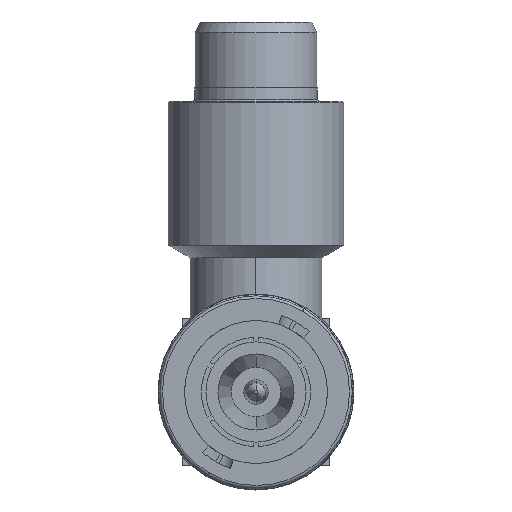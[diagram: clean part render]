
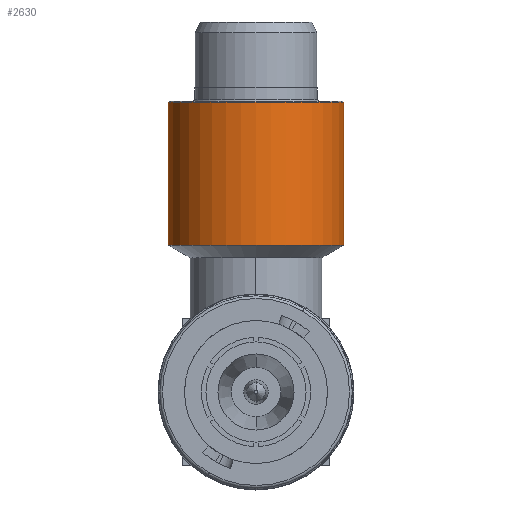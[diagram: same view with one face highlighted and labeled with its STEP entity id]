
A CAD part, front view. The second image highlights one B-rep face of the part: STEP entity #2630.
In plain terms, the highlighted cylindrical face has radius 8.471 mm (diameter 16.942 mm), a partial arc.
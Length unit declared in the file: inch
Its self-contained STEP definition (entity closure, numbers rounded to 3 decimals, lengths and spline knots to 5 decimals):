
#713=CARTESIAN_POINT('',(0.,0.6205,1.0995));
#714=DIRECTION('',(0.,0.,-1.));
#715=DIRECTION('',(1.,0.,0.));
#716=AXIS2_PLACEMENT_3D('',#713,#714,#715);
#722=DIRECTION('',(0.,0.,-1.));
#723=VECTOR('',#722,0.54179);
#724=CARTESIAN_POINT('',(0.3335,0.6205,1.0995));
#725=LINE('',#724,#723);
#726=DIRECTION('',(0.,0.,1.));
#727=VECTOR('',#726,0.54179);
#728=CARTESIAN_POINT('',(-0.3335,0.6205,0.55771));
#729=LINE('',#728,#727);
#730=CARTESIAN_POINT('',(0.,0.6205,0.55771));
#731=DIRECTION('',(0.,0.,1.));
#732=DIRECTION('',(-1.,0.,0.));
#733=AXIS2_PLACEMENT_3D('',#730,#731,#732);
#1706=CARTESIAN_POINT('',(0.3335,0.6205,0.55771));
#1707=CARTESIAN_POINT('',(-0.3335,0.6205,0.55771));
#1708=VERTEX_POINT('',#1706);
#1709=VERTEX_POINT('',#1707);
#1710=CARTESIAN_POINT('',(-0.3335,0.6205,
1.0995));
#1711=CARTESIAN_POINT('',(0.3335,0.6205,1.0995));
#1712=VERTEX_POINT('',#1710);
#1713=VERTEX_POINT('',#1711);
#2618=CARTESIAN_POINT('',(0.,0.6205,1.11034));
#2619=DIRECTION('',(0.,0.,-1.));
#2620=DIRECTION('',(1.,0.,0.));
#2621=AXIS2_PLACEMENT_3D('',#2618,#2619,#2620);
#2622=CYLINDRICAL_SURFACE('',#2621,0.3335);
#2623=ORIENTED_EDGE('',*,*,#2612,.F.);
#2624=ORIENTED_EDGE('',*,*,#2568,.T.);
#2626=ORIENTED_EDGE('',*,*,#2625,.F.);
#2627=ORIENTED_EDGE('',*,*,#2565,.T.);
#2628=EDGE_LOOP('',(#2623,#2624,#2626,#2627));
#2629=FACE_OUTER_BOUND('',#2628,.F.);
#2630=ADVANCED_FACE('',(#2629),#2622,.T.);
#717=CIRCLE('',#716,0.3335);
#734=CIRCLE('',#733,0.3335);
#2565=EDGE_CURVE('',#1709,#1712,#729,.T.);
#2568=EDGE_CURVE('',#1713,#1708,#725,.T.);
#2612=EDGE_CURVE('',#1713,#1712,#717,.T.);
#2625=EDGE_CURVE('',#1709,#1708,#734,.T.);
